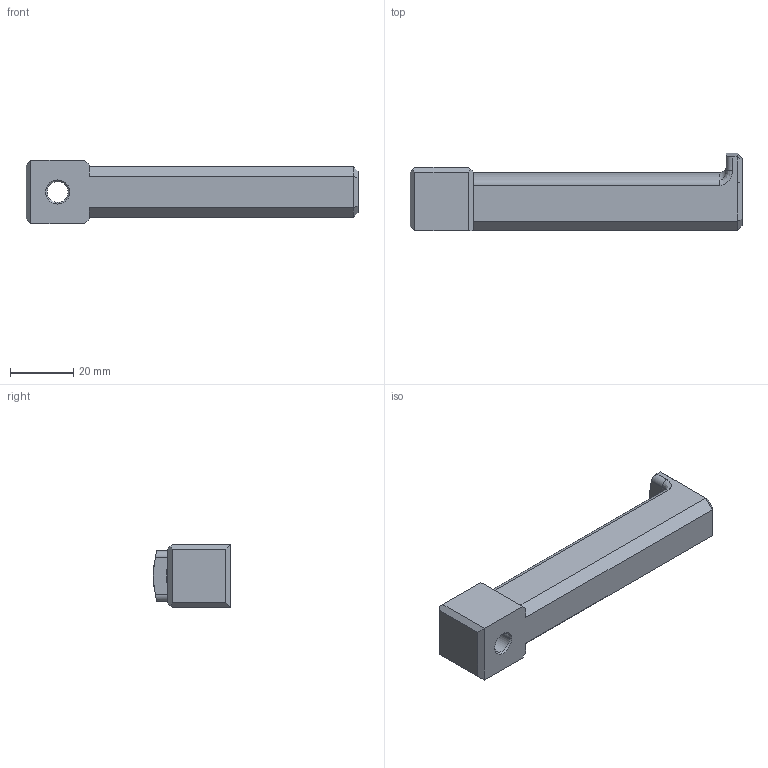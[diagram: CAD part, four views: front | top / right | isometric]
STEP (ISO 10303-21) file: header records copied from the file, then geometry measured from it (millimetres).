
FILE_DESCRIPTION(('CATIA V5 STEP Exchange'),'2;1');
FILE_NAME('D:\_이전 노트북\Cremaker모델링\Cremaker_profile-Metal(5차)-(Final)\Fila-support.stp','2020-10-23T05:21:33+00:00',('none'),('none'),'CATIA Version 5 Release 20 GA (IN-10)','CATIA V5 STEP AP203','none');
FILE_SCHEMA(('CONFIG_CONTROL_DESIGN'));
Length unit declared in the file: millimetre
Products named in the file (1): Fila-support
Bounding box: 105 x 24.5 x 20 mm (x, y, z)
Volume: 30465.4 mm3; surface area: 7897.6 mm2
Topology: 1 solids, 1 shells, 44 faces, 112 edges, 70 vertices
Faces by surface type: plane 28, cylinder 8, cone 5, bspline 2, torus 1
Entity records: 1520 total; most frequent: CARTESIAN_POINT 487, ORIENTED_EDGE 224, DIRECTION 164, EDGE_CURVE 112, VERTEX_POINT 70, VECTOR 66, LINE 66, AXIS2_PLACEMENT_3D 58
